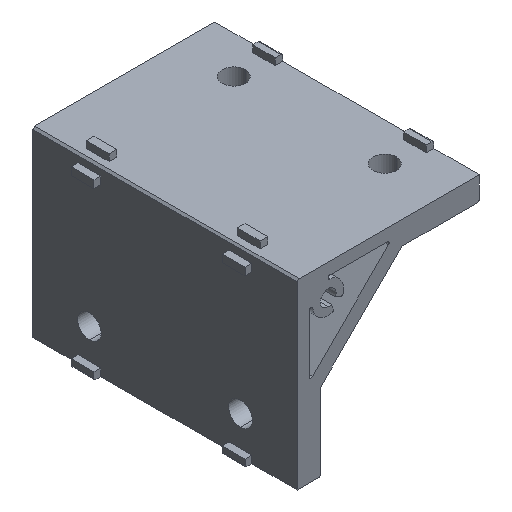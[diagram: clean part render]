
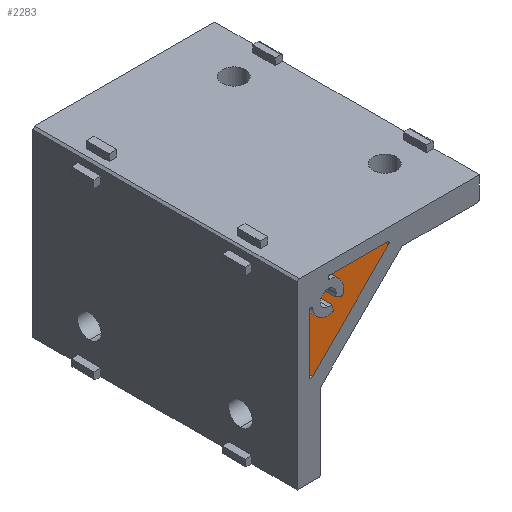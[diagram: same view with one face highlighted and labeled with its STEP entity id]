
A CAD part, isometric view. The second image highlights one B-rep face of the part: STEP entity #2283.
In plain terms, the highlighted planar face has unit normal (-0.707, 0, 0.707).
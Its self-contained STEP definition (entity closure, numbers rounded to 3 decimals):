
#142 = DIRECTION ( 'NONE',  ( 0.707, 0., 0.707 ) ) ;
#175 = CARTESIAN_POINT ( 'NONE',  ( 26.852, 70., -5. ) ) ;
#180 = ORIENTED_EDGE ( 'NONE', *, *, #828, .T. ) ;
#224 = LINE ( 'NONE', #2379, #1817 ) ;
#361 = VECTOR ( 'NONE', #1651, 1000. ) ;
#406 = CARTESIAN_POINT ( 'NONE',  ( 25.999, 70., -5.854 ) ) ;
#508 = DIRECTION ( 'NONE',  ( 0.707, 0., 0.707 ) ) ;
#546 = LINE ( 'NONE', #1951, #1662 ) ;
#588 = VERTEX_POINT ( 'NONE', #1116 ) ;
#602 = PLANE ( 'NONE',  #2042 ) ;
#617 = VECTOR ( 'NONE', #142, 1000. ) ;
#702 = CARTESIAN_POINT ( 'NONE',  ( 26.852, -63.64, -5. ) ) ;
#828 = EDGE_CURVE ( 'NONE', #588, #2267, #546, .T. ) ;
#1116 = CARTESIAN_POINT ( 'NONE',  ( 5.854, 70., -25.999 ) ) ;
#1223 = LINE ( 'NONE', #175, #617 ) ;
#1252 = VERTEX_POINT ( 'NONE', #406 ) ;
#1267 = ORIENTED_EDGE ( 'NONE', *, *, #1282, .F. ) ;
#1270 = CARTESIAN_POINT ( 'NONE',  ( 5.854, 0., -25.999 ) ) ;
#1282 = EDGE_CURVE ( 'NONE', #2272, #2267, #224, .T. ) ;
#1437 = LINE ( 'NONE', #1814, #361 ) ;
#1470 = DIRECTION ( 'NONE',  ( -0.707, 0., 0.707 ) ) ;
#1651 = DIRECTION ( 'NONE',  ( 0., 1., 0. ) ) ;
#1662 = VECTOR ( 'NONE', #2143, 1000. ) ;
#1814 = CARTESIAN_POINT ( 'NONE',  ( 25.999, -63.64, -5.854 ) ) ;
#1817 = VECTOR ( 'NONE', #2530, 1000. ) ;
#1909 = FACE_OUTER_BOUND ( 'NONE', #2297, .T. ) ;
#1951 = CARTESIAN_POINT ( 'NONE',  ( 5.854, -63.64, -25.999 ) ) ;
#2000 = EDGE_CURVE ( 'NONE', #2272, #1252, #1437, .T. ) ;
#2042 = AXIS2_PLACEMENT_3D ( 'NONE', #702, #1470, #508 ) ;
#2143 = DIRECTION ( 'NONE',  ( 0., -1., 0. ) ) ;
#2216 = ORIENTED_EDGE ( 'NONE', *, *, #2381, .F. ) ;
#2267 = VERTEX_POINT ( 'NONE', #1270 ) ;
#2272 = VERTEX_POINT ( 'NONE', #2502 ) ;
#2274 = ORIENTED_EDGE ( 'NONE', *, *, #2000, .T. ) ;
#2283 = ADVANCED_FACE ( 'NONE', ( #1909 ), #602, .T. ) ;
#2297 = EDGE_LOOP ( 'NONE', ( #2216, #180, #1267, #2274 ) ) ;
#2379 = CARTESIAN_POINT ( 'NONE',  ( 26.852, 0., -5. ) ) ;
#2381 = EDGE_CURVE ( 'NONE', #588, #1252, #1223, .T. ) ;
#2502 = CARTESIAN_POINT ( 'NONE',  ( 25.999, 0., -5.854 ) ) ;
#2530 = DIRECTION ( 'NONE',  ( -0.707, 0., -0.707 ) ) ;
